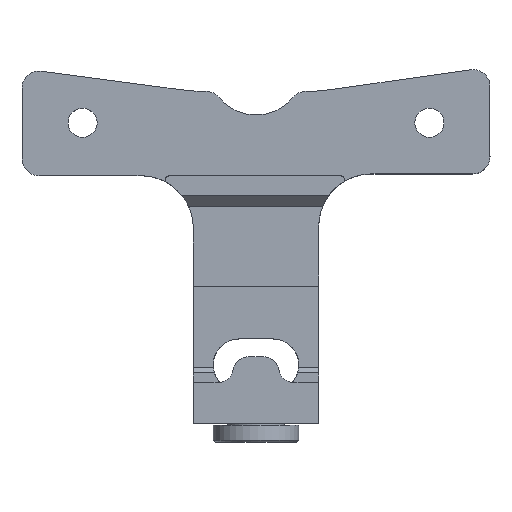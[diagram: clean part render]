
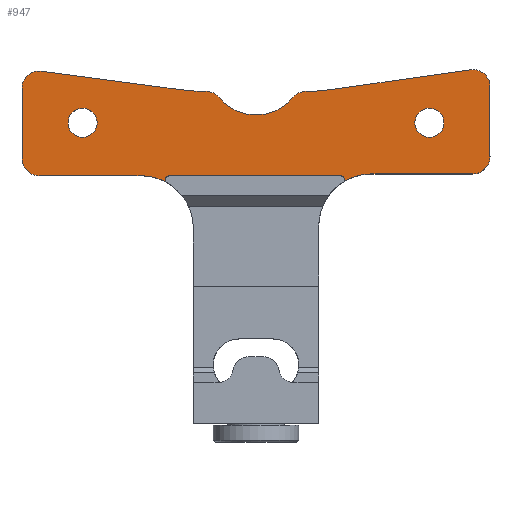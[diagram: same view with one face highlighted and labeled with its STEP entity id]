
A CAD part, top view. The second image highlights one B-rep face of the part: STEP entity #947.
In plain terms, the highlighted planar face has unit normal (0, 0, 1).
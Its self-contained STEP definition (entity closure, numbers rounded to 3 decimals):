
#574=PLANE('',#2080);
#681=LINE('',#2669,#809);
#696=LINE('',#2741,#824);
#697=LINE('',#2745,#825);
#698=LINE('',#2749,#826);
#699=LINE('',#2753,#827);
#700=LINE('',#2761,#828);
#701=LINE('',#2765,#829);
#702=LINE('',#2769,#830);
#703=LINE('',#2773,#831);
#809=VECTOR('',#2210,1.);
#824=VECTOR('',#2277,1.);
#825=VECTOR('',#2280,1.);
#826=VECTOR('',#2283,1.);
#827=VECTOR('',#2286,1.);
#828=VECTOR('',#2293,1.);
#829=VECTOR('',#2296,1.);
#830=VECTOR('',#2299,1.);
#831=VECTOR('',#2302,1.);
#947=ADVANCED_FACE('',(#1059,#1060,#1061),#574,.F.);
#1059=FACE_BOUND('',#1099,.T.);
#1060=FACE_BOUND('',#1100,.T.);
#1061=FACE_BOUND('',#1101,.T.);
#1099=EDGE_LOOP('',(#1234));
#1100=EDGE_LOOP('',(#1235));
#1101=EDGE_LOOP('',(#1236,#1237,#1238,#1239,#1240,#1241,#1242,#1243,#1244,
#1245,#1246,#1247,#1248,#1249,#1250,#1251,#1252,#1253,#1254,#1255,#1256,
#1257));
#1234=ORIENTED_EDGE('',*,*,#1792,.T.);
#1235=ORIENTED_EDGE('',*,*,#1779,.T.);
#1236=ORIENTED_EDGE('',*,*,#1764,.F.);
#1237=ORIENTED_EDGE('',*,*,#1793,.F.);
#1238=ORIENTED_EDGE('',*,*,#1794,.F.);
#1239=ORIENTED_EDGE('',*,*,#1795,.F.);
#1240=ORIENTED_EDGE('',*,*,#1796,.F.);
#1241=ORIENTED_EDGE('',*,*,#1797,.F.);
#1242=ORIENTED_EDGE('',*,*,#1798,.F.);
#1243=ORIENTED_EDGE('',*,*,#1799,.F.);
#1244=ORIENTED_EDGE('',*,*,#1800,.F.);
#1245=ORIENTED_EDGE('',*,*,#1801,.F.);
#1246=ORIENTED_EDGE('',*,*,#1802,.F.);
#1247=ORIENTED_EDGE('',*,*,#1803,.F.);
#1248=ORIENTED_EDGE('',*,*,#1804,.F.);
#1249=ORIENTED_EDGE('',*,*,#1805,.F.);
#1250=ORIENTED_EDGE('',*,*,#1806,.F.);
#1251=ORIENTED_EDGE('',*,*,#1807,.F.);
#1252=ORIENTED_EDGE('',*,*,#1808,.F.);
#1253=ORIENTED_EDGE('',*,*,#1809,.F.);
#1254=ORIENTED_EDGE('',*,*,#1810,.F.);
#1255=ORIENTED_EDGE('',*,*,#1811,.F.);
#1256=ORIENTED_EDGE('',*,*,#1757,.F.);
#1257=ORIENTED_EDGE('',*,*,#1761,.F.);
#1612=VERTEX_POINT('',#2658);
#1613=VERTEX_POINT('',#2659);
#1616=VERTEX_POINT('',#2670);
#1618=VERTEX_POINT('',#2676);
#1629=VERTEX_POINT('',#2710);
#1641=VERTEX_POINT('',#2738);
#1642=VERTEX_POINT('',#2740);
#1643=VERTEX_POINT('',#2742);
#1644=VERTEX_POINT('',#2744);
#1645=VERTEX_POINT('',#2746);
#1646=VERTEX_POINT('',#2748);
#1647=VERTEX_POINT('',#2750);
#1648=VERTEX_POINT('',#2752);
#1649=VERTEX_POINT('',#2754);
#1650=VERTEX_POINT('',#2756);
#1651=VERTEX_POINT('',#2758);
#1652=VERTEX_POINT('',#2760);
#1653=VERTEX_POINT('',#2762);
#1654=VERTEX_POINT('',#2764);
#1655=VERTEX_POINT('',#2766);
#1656=VERTEX_POINT('',#2768);
#1657=VERTEX_POINT('',#2770);
#1658=VERTEX_POINT('',#2772);
#1659=VERTEX_POINT('',#2774);
#1757=EDGE_CURVE('',#1612,#1613,#1967,.T.);
#1761=EDGE_CURVE('',#1616,#1612,#681,.T.);
#1764=EDGE_CURVE('',#1618,#1616,#1969,.T.);
#1779=EDGE_CURVE('',#1629,#1629,#1974,.T.);
#1792=EDGE_CURVE('',#1641,#1641,#1982,.T.);
#1793=EDGE_CURVE('',#1642,#1618,#1983,.T.);
#1794=EDGE_CURVE('',#1643,#1642,#696,.T.);
#1795=EDGE_CURVE('',#1644,#1643,#1984,.T.);
#1796=EDGE_CURVE('',#1645,#1644,#697,.T.);
#1797=EDGE_CURVE('',#1646,#1645,#1985,.T.);
#1798=EDGE_CURVE('',#1647,#1646,#698,.T.);
#1799=EDGE_CURVE('',#1648,#1647,#1986,.T.);
#1800=EDGE_CURVE('',#1649,#1648,#699,.T.);
#1801=EDGE_CURVE('',#1650,#1649,#1987,.T.);
#1802=EDGE_CURVE('',#1651,#1650,#1988,.T.);
#1803=EDGE_CURVE('',#1652,#1651,#1989,.T.);
#1804=EDGE_CURVE('',#1653,#1652,#700,.T.);
#1805=EDGE_CURVE('',#1654,#1653,#1990,.T.);
#1806=EDGE_CURVE('',#1655,#1654,#701,.T.);
#1807=EDGE_CURVE('',#1656,#1655,#1991,.T.);
#1808=EDGE_CURVE('',#1657,#1656,#702,.T.);
#1809=EDGE_CURVE('',#1658,#1657,#1992,.T.);
#1810=EDGE_CURVE('',#1659,#1658,#703,.T.);
#1811=EDGE_CURVE('',#1613,#1659,#1993,.T.);
#1967=CIRCLE('',#2041,0.482);
#1969=CIRCLE('',#2045,0.453);
#1974=CIRCLE('',#2057,1.7);
#1982=CIRCLE('',#2068,1.7);
#1983=CIRCLE('',#2069,6.1);
#1984=CIRCLE('',#2070,2.);
#1985=CIRCLE('',#2071,2.);
#1986=CIRCLE('',#2072,20.);
#1987=CIRCLE('',#2073,2.);
#1988=CIRCLE('',#2074,5.589);
#1989=CIRCLE('',#2075,2.);
#1990=CIRCLE('',#2076,20.);
#1991=CIRCLE('',#2077,2.);
#1992=CIRCLE('',#2078,2.);
#1993=CIRCLE('',#2079,6.1);
#2041=AXIS2_PLACEMENT_3D('',#2657,#2203,#2204);
#2045=AXIS2_PLACEMENT_3D('',#2675,#2215,#2216);
#2057=AXIS2_PLACEMENT_3D('',#2709,#2246,#2247);
#2068=AXIS2_PLACEMENT_3D('',#2737,#2273,#2274);
#2069=AXIS2_PLACEMENT_3D('',#2739,#2275,#2276);
#2070=AXIS2_PLACEMENT_3D('',#2743,#2278,#2279);
#2071=AXIS2_PLACEMENT_3D('',#2747,#2281,#2282);
#2072=AXIS2_PLACEMENT_3D('',#2751,#2284,#2285);
#2073=AXIS2_PLACEMENT_3D('',#2755,#2287,#2288);
#2074=AXIS2_PLACEMENT_3D('',#2757,#2289,#2290);
#2075=AXIS2_PLACEMENT_3D('',#2759,#2291,#2292);
#2076=AXIS2_PLACEMENT_3D('',#2763,#2294,#2295);
#2077=AXIS2_PLACEMENT_3D('',#2767,#2297,#2298);
#2078=AXIS2_PLACEMENT_3D('',#2771,#2300,#2301);
#2079=AXIS2_PLACEMENT_3D('',#2775,#2303,#2304);
#2080=AXIS2_PLACEMENT_3D('',#2776,#2305,#2306);
#2203=DIRECTION('',(0.,0.,1.));
#2204=DIRECTION('',(0.,1.,0.));
#2210=DIRECTION('',(-1.,0.,0.));
#2215=DIRECTION('',(0.,0.,1.));
#2216=DIRECTION('',(0.,1.,0.));
#2246=DIRECTION('',(0.,0.,-1.));
#2247=DIRECTION('',(0.,-1.,0.));
#2273=DIRECTION('',(0.,0.,-1.));
#2274=DIRECTION('',(0.,-1.,0.));
#2275=DIRECTION('',(0.,0.,1.));
#2276=DIRECTION('',(0.,1.,0.));
#2277=DIRECTION('',(-1.,0.,0.));
#2278=DIRECTION('',(0.,0.,-1.));
#2279=DIRECTION('',(0.,1.,0.));
#2280=DIRECTION('',(0.,-1.,0.));
#2281=DIRECTION('',(0.,0.,-1.));
#2282=DIRECTION('',(0.,1.,0.));
#2283=DIRECTION('',(0.99,0.141,0.));
#2284=DIRECTION('',(0.,0.,1.));
#2285=DIRECTION('',(0.,1.,0.));
#2286=DIRECTION('',(1.,0.,0.));
#2287=DIRECTION('',(0.,0.,-1.));
#2288=DIRECTION('',(0.,1.,0.));
#2289=DIRECTION('',(0.,0.,1.));
#2290=DIRECTION('',(0.,1.,0.));
#2291=DIRECTION('',(0.,0.,-1.));
#2292=DIRECTION('',(0.,1.,0.));
#2293=DIRECTION('',(1.,0.,0.));
#2294=DIRECTION('',(0.,0.,1.));
#2295=DIRECTION('',(0.,1.,0.));
#2296=DIRECTION('',(0.991,-0.131,0.));
#2297=DIRECTION('',(0.,0.,-1.));
#2298=DIRECTION('',(0.,1.,0.));
#2299=DIRECTION('',(0.,1.,0.));
#2300=DIRECTION('',(0.,0.,-1.));
#2301=DIRECTION('',(0.,1.,0.));
#2302=DIRECTION('',(-1.,0.,0.));
#2303=DIRECTION('',(0.,0.,1.));
#2304=DIRECTION('',(0.,1.,0.));
#2305=DIRECTION('',(0.,0.,-1.));
#2306=DIRECTION('',(0.,-1.,0.));
#2657=CARTESIAN_POINT('',(64.898,14.899,-10.1));
#2658=CARTESIAN_POINT('',(64.898,15.38,-10.1));
#2659=CARTESIAN_POINT('',(64.476,14.668,-10.1));
#2669=CARTESIAN_POINT('',(84.898,15.38,-10.1));
#2670=CARTESIAN_POINT('',(84.898,15.38,-10.1));
#2675=CARTESIAN_POINT('',(84.898,14.927,-10.1));
#2676=CARTESIAN_POINT('',(85.313,14.744,-10.1));
#2709=CARTESIAN_POINT('',(95.254,21.576,-10.1));
#2710=CARTESIAN_POINT('',(95.254,19.876,-10.1));
#2737=CARTESIAN_POINT('',(54.754,21.576,-10.1));
#2738=CARTESIAN_POINT('',(54.754,19.876,-10.1));
#2739=CARTESIAN_POINT('',(88.429,9.5,-10.1));
#2740=CARTESIAN_POINT('',(88.429,15.6,-10.1));
#2741=CARTESIAN_POINT('',(100.329,15.6,-10.1));
#2742=CARTESIAN_POINT('',(100.329,15.6,-10.1));
#2743=CARTESIAN_POINT('',(100.329,17.6,-10.1));
#2744=CARTESIAN_POINT('',(102.329,17.6,-10.1));
#2745=CARTESIAN_POINT('',(102.329,25.794,-10.1));
#2746=CARTESIAN_POINT('',(102.329,25.794,-10.1));
#2747=CARTESIAN_POINT('',(100.329,25.794,-10.1));
#2748=CARTESIAN_POINT('',(100.047,27.774,-10.1));
#2749=CARTESIAN_POINT('',(83.732,25.45,-10.1));
#2750=CARTESIAN_POINT('',(83.732,25.45,-10.1));
#2751=CARTESIAN_POINT('',(80.911,45.25,-10.1));
#2752=CARTESIAN_POINT('',(80.911,25.25,-10.1));
#2753=CARTESIAN_POINT('',(80.865,25.25,-10.1));
#2754=CARTESIAN_POINT('',(80.865,25.25,-10.1));
#2755=CARTESIAN_POINT('',(80.865,23.25,-10.1));
#2756=CARTESIAN_POINT('',(79.32,24.52,-10.1));
#2757=CARTESIAN_POINT('',(75.004,28.07,-10.1));
#2758=CARTESIAN_POINT('',(70.687,24.52,-10.1));
#2759=CARTESIAN_POINT('',(69.143,23.25,-10.1));
#2760=CARTESIAN_POINT('',(69.143,25.25,-10.1));
#2761=CARTESIAN_POINT('',(68.998,25.25,-10.1));
#2762=CARTESIAN_POINT('',(68.998,25.25,-10.1));
#2763=CARTESIAN_POINT('',(68.998,45.25,-10.1));
#2764=CARTESIAN_POINT('',(66.371,25.423,-10.1));
#2765=CARTESIAN_POINT('',(49.942,27.6,-10.1));
#2766=CARTESIAN_POINT('',(49.942,27.6,-10.1));
#2767=CARTESIAN_POINT('',(49.679,25.617,-10.1));
#2768=CARTESIAN_POINT('',(47.679,25.617,-10.1));
#2769=CARTESIAN_POINT('',(47.679,17.4,-10.1));
#2770=CARTESIAN_POINT('',(47.679,17.4,-10.1));
#2771=CARTESIAN_POINT('',(49.679,17.4,-10.1));
#2772=CARTESIAN_POINT('',(49.679,15.4,-10.1));
#2773=CARTESIAN_POINT('',(61.579,15.4,-10.1));
#2774=CARTESIAN_POINT('',(61.579,15.4,-10.1));
#2775=CARTESIAN_POINT('',(61.579,9.3,-10.1));
#2776=CARTESIAN_POINT('',(75.004,-16.25,-10.1));
